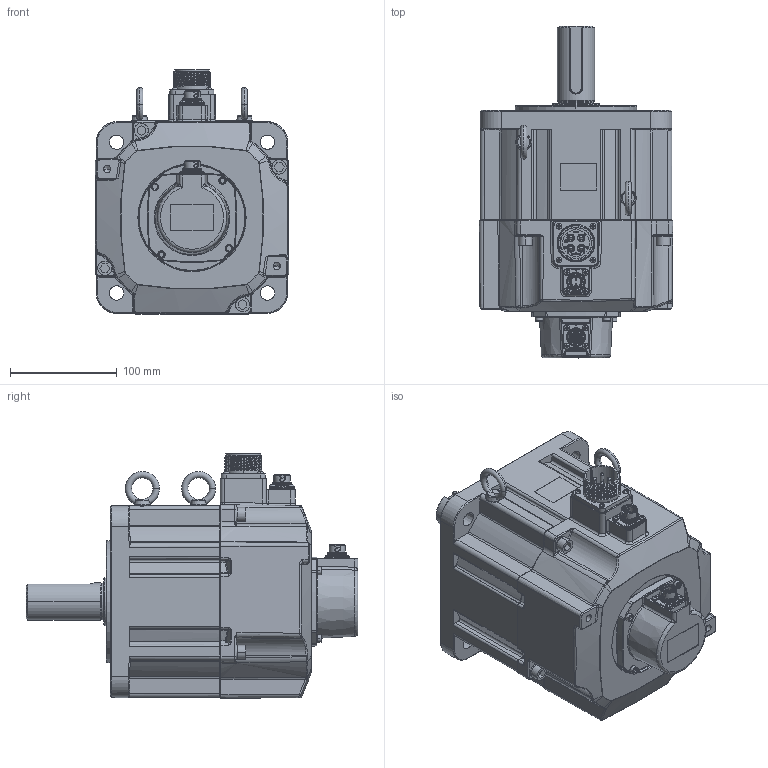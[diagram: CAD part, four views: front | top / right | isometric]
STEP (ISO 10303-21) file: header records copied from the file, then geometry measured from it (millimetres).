
FILE_DESCRIPTION((''),'2;1');
FILE_NAME('ASM0002_ASM','2024-10-21T10:34:39',('TED.FANG'),(''),'CREO PARAMETRIC BY PTC INC, 2020454','CREO PARAMETRIC BY PTC INC, 2020454','');
FILE_SCHEMA(('CONFIG_CONTROL_DESIGN'));
Products named in the file (28): ECM-B3M-F_1845SS__SW0002; LQM37B48FFDB5MH_1; LQM37B48FFDB5MH_2; LQM37B48FFDB5MH_3; LQM37B48FFDB5MH_4; LQM37B48FFDB5MH_5; LQM37B48FFDB5MH_6; LQM37B48FFDB5MH_7; LQM37B48FFDB5MH_8; LQM37B48FFDB5MH_9; LQM37B48FFDB5MH_10; LQM37B48FFDB5MH_11; LQM37B48FFDB5MH_12; LQM37B48FFDB5MH_13; LQM37B48FFDB5MH_14; LQM37B48FFDB5MH_15; LQM37B48FFDB5MH_ASM; SM-10RH-B-RECEPTACLE_ASM; LQM3414E83732KW_1; LQM3414E83732KW_2; LQM3414E83732KW_3; LQM3414E83732KW_4; LQM3414E83732KW_5; LQM3414E83732KW_6; LQM3414E83732KW_7; LQM3414E83732KW_ASM; SM-2RH-B-20240329_ASM; ASM0002_ASM
Assembly tree (27 placements, depth 4):
  ASM0002_ASM
    ECM-B3M-F_1845SS__SW0002
    SM-10RH-B-RECEPTACLE_ASM
      LQM37B48FFDB5MH_ASM
        LQM37B48FFDB5MH_1
        LQM37B48FFDB5MH_2
        LQM37B48FFDB5MH_3
        LQM37B48FFDB5MH_4
        LQM37B48FFDB5MH_5
        LQM37B48FFDB5MH_6
        LQM37B48FFDB5MH_7
        LQM37B48FFDB5MH_8
        LQM37B48FFDB5MH_9
        LQM37B48FFDB5MH_10
        LQM37B48FFDB5MH_11
        LQM37B48FFDB5MH_12
        LQM37B48FFDB5MH_13
        LQM37B48FFDB5MH_14
        LQM37B48FFDB5MH_15
    SM-2RH-B-20240329_ASM
      LQM3414E83732KW_ASM
        LQM3414E83732KW_1
        LQM3414E83732KW_2
        LQM3414E83732KW_3
        LQM3414E83732KW_4
        LQM3414E83732KW_5
        LQM3414E83732KW_6
        LQM3414E83732KW_7
Bounding box: 181.48 x 311.3 x 229.49 mm (x, y, z)
Volume: 5522186.1 mm3; surface area: 254968.4 mm2
Topology: 22 solids, 24 shells, 5272 faces, 14430 edges, 9381 vertices
Faces by surface type: plane 2636, cylinder 1146, cone 463, bspline 375, torus 297, extrusion 257, sphere 98
Entity records: 216320 total; most frequent: CARTESIAN_POINT 85098, ORIENTED_EDGE 28594, DIRECTION 25301, EDGE_CURVE 14334, VERTEX_POINT 9381, AXIS2_PLACEMENT_3D 8452, VECTOR 8397, LINE 8140
